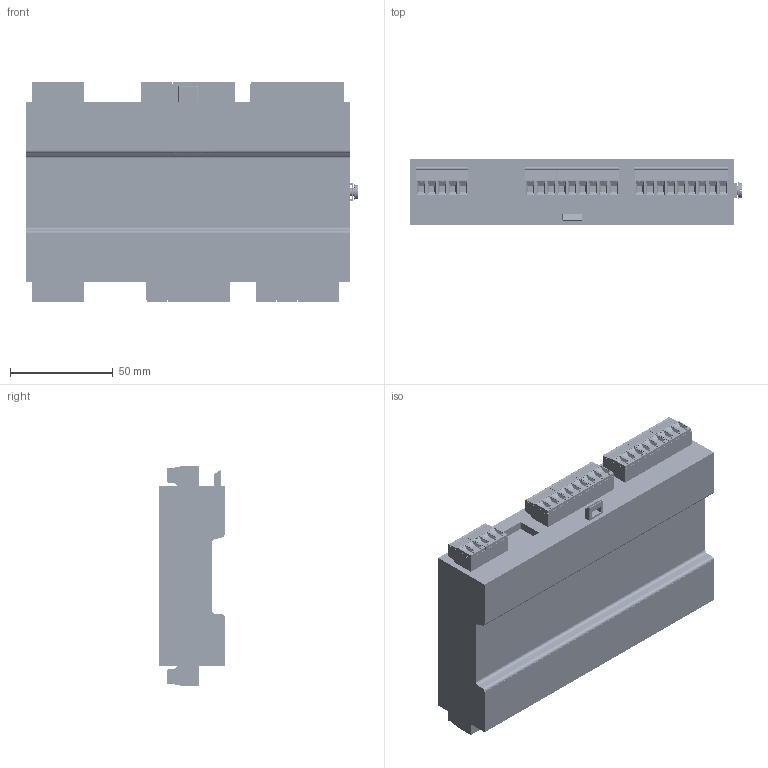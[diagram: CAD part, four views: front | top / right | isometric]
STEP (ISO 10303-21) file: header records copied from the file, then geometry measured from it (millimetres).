
FILE_DESCRIPTION(/* description */ (''),/* implementation_level */ '2;1');
FILE_NAME(/* name */ 'W:/Marketing/Product/PRO-MUX/PRO-MUX-1/Files for Web download/PRO-MUX-1(Type-R) Block Model v16.step',/* time_stamp */ '2018-05-09T15:20:30+01:00',/* author */ ('dougDQJX2'),/* organization */ (''),/* preprocessor_version */ 'ST-DEVELOPER v17',/* originating_system */ 'Autodesk Translation Framework v7.1.0.215',/* authorisation */ '');
FILE_SCHEMA (('AUTOMOTIVE_DESIGN { 1 0 10303 214 3 1 1 }'));
Products named in the file (14): PRO-MUX-1(Type-R); PRO-MUX-1 populated PCB; PRO-MUX-1 (Rev 1) PCB (1; ARJC02-111006E; PC Screw Terminal; PC Screw Terminal bolt; cim059p5; Sauro cim099p5; cim089p5; Sauro cif02005; Sauro cif03005; Aggancio lungo; Shakeproof washer; Block Body Only
Assembly tree (32 placements, depth 3):
  PRO-MUX-1(Type-R)
    PRO-MUX-1 populated PCB
      PRO-MUX-1 (Rev 1) PCB (1
      cim059p5  x2
      ARJC02-111006E
      Sauro cim099p5  x2
      cim089p5  x2
      PC Screw Terminal
      PC Screw Terminal bolt
      Sauro cif02005  x10
      Sauro cif03005  x8
    Aggancio lungo
    Shakeproof washer
    Block Body Only
Bounding box: 161.68 x 32 x 107.02 mm (x, y, z)
Volume: 481586.4 mm3; surface area: 126307.8 mm2
Topology: 31 solids, 31 shells, 8276 faces, 22265 edges, 14551 vertices
Faces by surface type: plane 5713, cylinder 2119, torus 242, cone 176, bspline 14, sphere 12
Full cylindrical faces by diameter (mm): 1 x114, 1.3 x6, 1.4 x2, 1.5 x44, 1.52 x18, 1.7 x8, 1.722 x2, 2 x18, 2.75 x44, 3 x20, 3.4 x1, 3.7 x44, 3.85 x44, 4 x45, 5 x1, 7 x1
Entity records: 102598 total; most frequent: CARTESIAN_POINT 19824, ORIENTED_EDGE 17118, DIRECTION 16713, EDGE_CURVE 8559, LINE 6249, VECTOR 6249, VERTEX_POINT 5539, AXIS2_PLACEMENT_3D 5232
